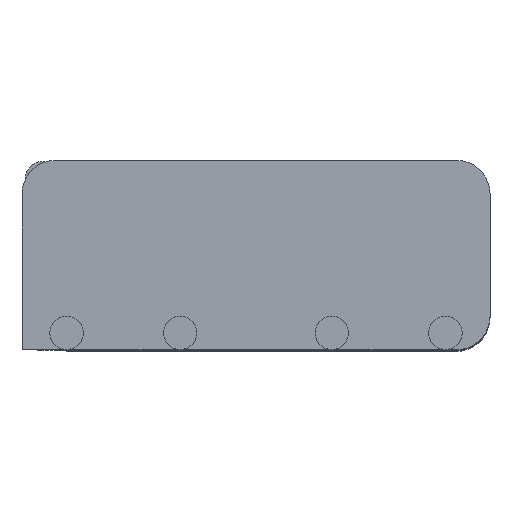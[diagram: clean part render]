
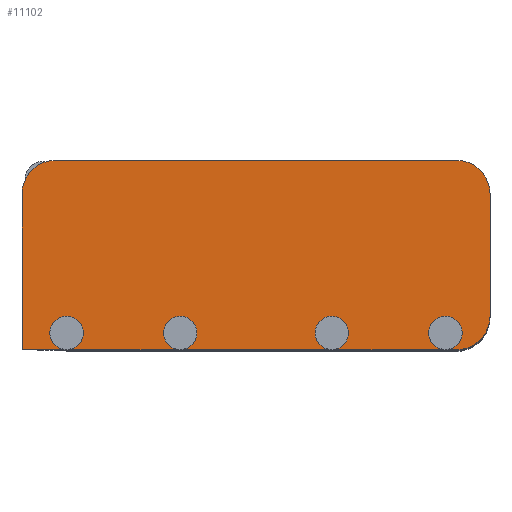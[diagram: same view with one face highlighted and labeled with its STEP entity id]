
A CAD part, top view. The second image highlights one B-rep face of the part: STEP entity #11102.
In plain terms, the highlighted planar face has unit normal (0, 0, 1).
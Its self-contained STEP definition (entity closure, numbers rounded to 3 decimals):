
#1268=PLANE('',#11807);
#1508=FACE_OUTER_BOUND('',#2151,.T.);
#2151=EDGE_LOOP('',(#7734,#7735,#7736,#7737,#7738,#7739,#7740,#7741,#7742,
#7743,#7744,#7745,#7746,#7747,#7748,#7749,#7750,#7751,#7752));
#2807=CIRCLE('',#11748,0.75);
#2808=CIRCLE('',#11749,0.75);
#2810=CIRCLE('',#11753,0.75);
#2811=CIRCLE('',#11754,0.75);
#2813=CIRCLE('',#11758,0.75);
#2814=CIRCLE('',#11759,0.75);
#2816=CIRCLE('',#11763,0.75);
#2817=CIRCLE('',#11764,0.75);
#2828=CIRCLE('',#11787,1.5);
#2835=CIRCLE('',#11805,1.5);
#2836=CIRCLE('',#11808,1.5);
#2872=LINE('',#13621,#3766);
#2891=LINE('',#13708,#3785);
#2892=LINE('',#13709,#3786);
#2893=LINE('',#13710,#3787);
#2894=LINE('',#13711,#3788);
#2895=LINE('',#13712,#3789);
#2903=LINE('',#13775,#3797);
#2916=LINE('',#13838,#3810);
#3766=VECTOR('',#12087,10.);
#3785=VECTOR('',#12168,10.);
#3786=VECTOR('',#12169,10.);
#3787=VECTOR('',#12170,10.);
#3788=VECTOR('',#12171,10.);
#3789=VECTOR('',#12172,10.);
#3797=VECTOR('',#12224,10.);
#3810=VECTOR('',#12269,10.);
#4659=VERTEX_POINT('',#13605);
#4666=VERTEX_POINT('',#13619);
#4675=VERTEX_POINT('',#13650);
#4676=VERTEX_POINT('',#13652);
#4678=VERTEX_POINT('',#13659);
#4679=VERTEX_POINT('',#13661);
#4681=VERTEX_POINT('',#13668);
#4682=VERTEX_POINT('',#13670);
#4684=VERTEX_POINT('',#13677);
#4685=VERTEX_POINT('',#13679);
#4695=VERTEX_POINT('',#13706);
#4702=VERTEX_POINT('',#13749);
#4704=VERTEX_POINT('',#13773);
#4712=VERTEX_POINT('',#13805);
#4718=VERTEX_POINT('',#13836);
#5828=EDGE_CURVE('',#4666,#4659,#2872,.T.);
#5839=EDGE_CURVE('',#4676,#4675,#2807,.T.);
#5840=EDGE_CURVE('',#4675,#4676,#2808,.T.);
#5843=EDGE_CURVE('',#4679,#4678,#2810,.T.);
#5844=EDGE_CURVE('',#4678,#4679,#2811,.T.);
#5847=EDGE_CURVE('',#4682,#4681,#2813,.T.);
#5848=EDGE_CURVE('',#4681,#4682,#2814,.T.);
#5851=EDGE_CURVE('',#4685,#4684,#2816,.T.);
#5852=EDGE_CURVE('',#4684,#4685,#2817,.T.);
#5865=EDGE_CURVE('',#4695,#4685,#2891,.T.);
#5866=EDGE_CURVE('',#4685,#4679,#2892,.T.);
#5867=EDGE_CURVE('',#4679,#4676,#2893,.T.);
#5868=EDGE_CURVE('',#4676,#4682,#2894,.T.);
#5869=EDGE_CURVE('',#4682,#4666,#2895,.T.);
#5884=EDGE_CURVE('',#4702,#4695,#2828,.T.);
#5890=EDGE_CURVE('',#4702,#4704,#2903,.T.);
#5905=EDGE_CURVE('',#4659,#4712,#2835,.T.);
#5912=EDGE_CURVE('',#4718,#4704,#2836,.T.);
#5913=EDGE_CURVE('',#4712,#4718,#2916,.T.);
#7734=ORIENTED_EDGE('',*,*,#5912,.F.);
#7735=ORIENTED_EDGE('',*,*,#5913,.F.);
#7736=ORIENTED_EDGE('',*,*,#5905,.F.);
#7737=ORIENTED_EDGE('',*,*,#5828,.F.);
#7738=ORIENTED_EDGE('',*,*,#5869,.F.);
#7739=ORIENTED_EDGE('',*,*,#5847,.T.);
#7740=ORIENTED_EDGE('',*,*,#5848,.T.);
#7741=ORIENTED_EDGE('',*,*,#5868,.F.);
#7742=ORIENTED_EDGE('',*,*,#5839,.T.);
#7743=ORIENTED_EDGE('',*,*,#5840,.T.);
#7744=ORIENTED_EDGE('',*,*,#5867,.F.);
#7745=ORIENTED_EDGE('',*,*,#5843,.T.);
#7746=ORIENTED_EDGE('',*,*,#5844,.T.);
#7747=ORIENTED_EDGE('',*,*,#5866,.F.);
#7748=ORIENTED_EDGE('',*,*,#5851,.T.);
#7749=ORIENTED_EDGE('',*,*,#5852,.T.);
#7750=ORIENTED_EDGE('',*,*,#5865,.F.);
#7751=ORIENTED_EDGE('',*,*,#5884,.F.);
#7752=ORIENTED_EDGE('',*,*,#5890,.T.);
#11102=ADVANCED_FACE('',(#1508),#1268,.T.);
#11748=AXIS2_PLACEMENT_3D('',#13653,#12109,#12110);
#11749=AXIS2_PLACEMENT_3D('',#13654,#12111,#12112);
#11753=AXIS2_PLACEMENT_3D('',#13662,#12120,#12121);
#11754=AXIS2_PLACEMENT_3D('',#13663,#12122,#12123);
#11758=AXIS2_PLACEMENT_3D('',#13671,#12131,#12132);
#11759=AXIS2_PLACEMENT_3D('',#13672,#12133,#12134);
#11763=AXIS2_PLACEMENT_3D('',#13680,#12142,#12143);
#11764=AXIS2_PLACEMENT_3D('',#13681,#12144,#12145);
#11787=AXIS2_PLACEMENT_3D('',#13751,#12210,#12211);
#11805=AXIS2_PLACEMENT_3D('',#13806,#12259,#12260);
#11807=AXIS2_PLACEMENT_3D('',#13835,#12265,#12266);
#11808=AXIS2_PLACEMENT_3D('',#13837,#12267,#12268);
#12087=DIRECTION('',(0.,1.,0.));
#12109=DIRECTION('center_axis',(0.,0.,-1.));
#12110=DIRECTION('ref_axis',(1.,0.,0.));
#12111=DIRECTION('center_axis',(0.,0.,-1.));
#12112=DIRECTION('ref_axis',(1.,0.,0.));
#12120=DIRECTION('center_axis',(0.,0.,-1.));
#12121=DIRECTION('ref_axis',(1.,0.,0.));
#12122=DIRECTION('center_axis',(0.,0.,-1.));
#12123=DIRECTION('ref_axis',(1.,0.,0.));
#12131=DIRECTION('center_axis',(0.,0.,-1.));
#12132=DIRECTION('ref_axis',(1.,0.,0.));
#12133=DIRECTION('center_axis',(0.,0.,-1.));
#12134=DIRECTION('ref_axis',(1.,0.,0.));
#12142=DIRECTION('center_axis',(0.,0.,-1.));
#12143=DIRECTION('ref_axis',(1.,0.,0.));
#12144=DIRECTION('center_axis',(0.,0.,-1.));
#12145=DIRECTION('ref_axis',(1.,0.,0.));
#12168=DIRECTION('',(-1.,0.,0.));
#12169=DIRECTION('',(-1.,0.,0.));
#12170=DIRECTION('',(-1.,0.,0.));
#12171=DIRECTION('',(-1.,0.,0.));
#12172=DIRECTION('',(-1.,0.,0.));
#12210=DIRECTION('center_axis',(0.,0.,-1.));
#12211=DIRECTION('ref_axis',(0.707,-0.707,0.));
#12224=DIRECTION('',(0.,1.,0.));
#12259=DIRECTION('center_axis',(0.,0.,-1.));
#12260=DIRECTION('ref_axis',(-0.707,0.707,0.));
#12265=DIRECTION('center_axis',(0.,0.,1.));
#12266=DIRECTION('ref_axis',(1.,0.,0.));
#12267=DIRECTION('center_axis',(0.,0.,-1.));
#12268=DIRECTION('ref_axis',(0.707,0.707,0.));
#12269=DIRECTION('',(1.,0.,0.));
#13605=CARTESIAN_POINT('',(-10.5,7.,17.));
#13619=CARTESIAN_POINT('',(-10.5,0.,17.));
#13621=CARTESIAN_POINT('',(-10.5,0.,17.));
#13650=CARTESIAN_POINT('',(-4.15,0.75,17.));
#13652=CARTESIAN_POINT('',(-3.4,0.,17.));
#13653=CARTESIAN_POINT('Origin',(-3.4,0.75,17.));
#13654=CARTESIAN_POINT('Origin',(-3.4,0.75,17.));
#13659=CARTESIAN_POINT('',(2.65,0.75,17.));
#13661=CARTESIAN_POINT('',(3.4,0.,17.));
#13662=CARTESIAN_POINT('Origin',(3.4,0.75,17.));
#13663=CARTESIAN_POINT('Origin',(3.4,0.75,17.));
#13668=CARTESIAN_POINT('',(-9.25,0.75,17.));
#13670=CARTESIAN_POINT('',(-8.5,0.,17.));
#13671=CARTESIAN_POINT('Origin',(-8.5,0.75,17.));
#13672=CARTESIAN_POINT('Origin',(-8.5,0.75,17.));
#13677=CARTESIAN_POINT('',(7.75,0.75,17.));
#13679=CARTESIAN_POINT('',(8.5,0.,17.));
#13680=CARTESIAN_POINT('Origin',(8.5,0.75,17.));
#13681=CARTESIAN_POINT('Origin',(8.5,0.75,17.));
#13706=CARTESIAN_POINT('',(9.,0.,17.));
#13708=CARTESIAN_POINT('',(10.5,0.,17.));
#13709=CARTESIAN_POINT('',(10.5,0.,17.));
#13710=CARTESIAN_POINT('',(10.5,0.,17.));
#13711=CARTESIAN_POINT('',(10.5,0.,17.));
#13712=CARTESIAN_POINT('',(10.5,0.,17.));
#13749=CARTESIAN_POINT('',(10.5,1.5,17.));
#13751=CARTESIAN_POINT('Origin',(9.,1.5,17.));
#13773=CARTESIAN_POINT('',(10.5,7.,17.));
#13775=CARTESIAN_POINT('',(10.5,0.,17.));
#13805=CARTESIAN_POINT('',(-9.,8.5,17.));
#13806=CARTESIAN_POINT('Origin',(-9.,7.,17.));
#13835=CARTESIAN_POINT('Origin',(-10.5,0.,17.));
#13836=CARTESIAN_POINT('',(9.,8.5,17.));
#13837=CARTESIAN_POINT('Origin',(9.,7.,17.));
#13838=CARTESIAN_POINT('',(10.5,8.5,17.));
